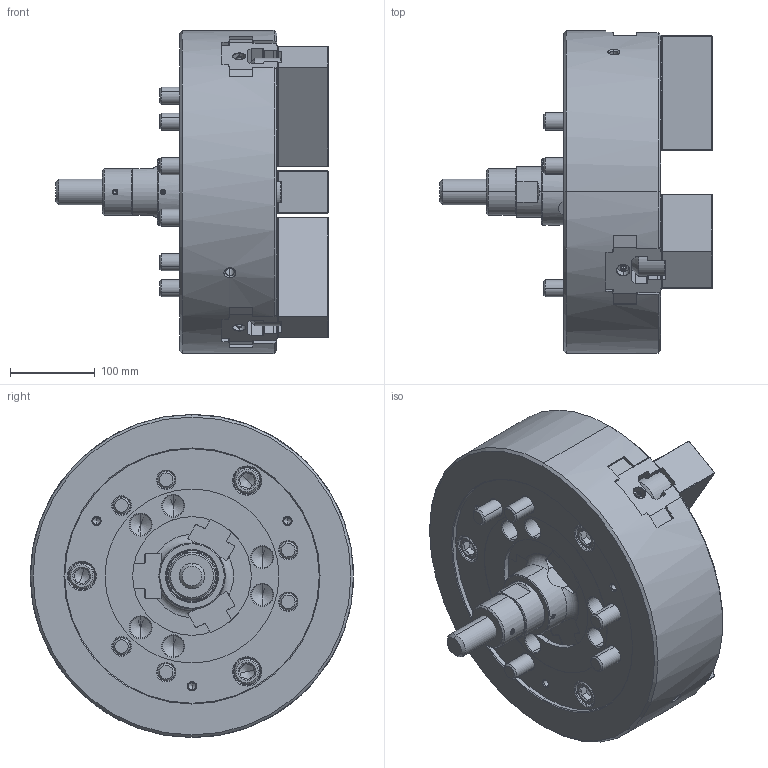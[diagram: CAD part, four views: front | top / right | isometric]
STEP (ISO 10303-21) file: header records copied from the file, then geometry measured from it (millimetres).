
FILE_DESCRIPTION (( 'STEP AP214' ), '1' );
FILE_NAME ('DT1_N-15_OUTSIDE_VIEW_HOL.STEP', '2026-03-19T02:21:03', ( '' ), ( '' ), 'SwSTEP 2.0', 'SolidWorks 2022', '' );
FILE_SCHEMA (( 'AUTOMOTIVE_DESIGN' ));
Length unit declared in the file: millimetre
Products named in the file (11): DT1_N-15_COVER^DT1_N-15; DT1_N-15_M20x55^DT1_N-15; DT1_N-15_BASE^DT1_N-15; DT1_N-15_TNUT^DT1_N-15; Copy of 61P321208^DT1_N-15; DT1_N-15_SOFTJAW^DT1_N-15; DT1_N-15_DN^DT1_N-15; DT1_N-15_DRAWSCREW^DT1_N-15; DT1_N-15_M6x12^DT1_N-15; DT1_N-15_M20x115^DT1_N-15; DT1_N-15_OUTSIDE_VIEW_HOL
Assembly tree (29 placements, depth 2):
  DT1_N-15_OUTSIDE_VIEW_HOL
    DT1_N-15_SOFTJAW^DT1_N-15  x3
    DT1_N-15_TNUT^DT1_N-15  x6
    DT1_N-15_COVER^DT1_N-15
    DT1_N-15_DRAWSCREW^DT1_N-15
    Copy of 61P321208^DT1_N-15
    DT1_N-15_DN^DT1_N-15
    DT1_N-15_BASE^DT1_N-15
    DT1_N-15_M6x12^DT1_N-15  x3
    DT1_N-15_M20x115^DT1_N-15  x6
    DT1_N-15_M20x55^DT1_N-15  x6
Bounding box: 321.44 x 381 x 381 mm (x, y, z)
Volume: 13539810.8 mm3; surface area: 954964.7 mm2
Topology: 29 solids, 30 shells, 5358 faces, 15277 edges, 10023 vertices
Faces by surface type: plane 3945, cylinder 825, cone 433, bspline 95, torus 54, sphere 6
Entity records: 130426 total; most frequent: CARTESIAN_POINT 33379, ORIENTED_EDGE 21854, DIRECTION 17671, EDGE_CURVE 10927, VECTOR 8373, LINE 8373, VERTEX_POINT 7189, AXIS2_PLACEMENT_3D 4649
